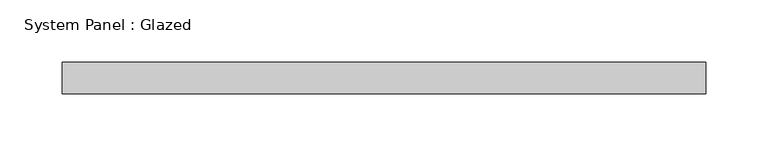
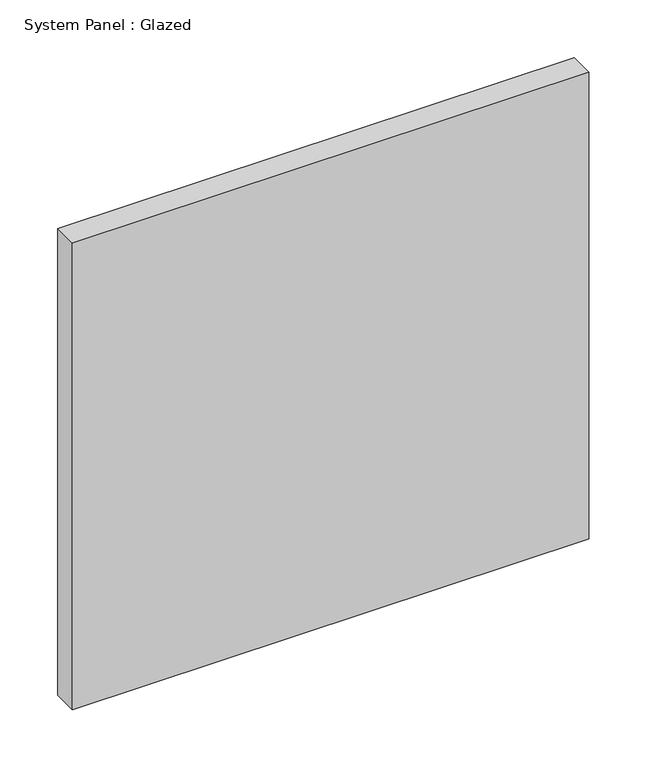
"""IFC4 building model written with IfcOpenShell, lengths in millimetres: plate geometry, System Panel : Glazed."""

import ifcopenshell
import ifcopenshell.guid

model = None  # the IFC model being written
_history = None  # IfcOwnerHistory: only IFC2X3 demands one
_inside = {}  # id of a spatial element -> (the spatial element, [elements in it])
_under = {}  # id of a project, library or spatial element -> (it, [spatial elements below it])
_declared = {}  # id of a project -> (the project, [libraries it declares])
_typed = {}  # id of a type object -> (the type object, [elements of that type])
_made_of = {}  # id of a material, layer set ... -> (it, [elements and type objects made of it])


def new_model(schema):
    """Start an empty IFC model of exactly this schema.

    Asked for "IFC4X3", IfcOpenShell would pick the latest addendum, in which some entities
    have other attributes; the version numbers below select the first issue.
    IFC2X3 requires an IfcOwnerHistory on every rooted entity: one is made here for all.
    """
    global model, _history
    if schema == "IFC4X3":
        model = ifcopenshell.file(schema_version=(4, 3, 0, 0))
    else:
        model = ifcopenshell.file(schema=schema)
    _inside.clear()
    _under.clear()
    _declared.clear()
    _typed.clear()
    _made_of.clear()
    _history = None
    if model.schema == "IFC2X3":
        org = make("IfcOrganization", Name="unknown")
        user = make(
            "IfcPersonAndOrganization",
            ThePerson=make("IfcPerson", FamilyName="unknown"),
            TheOrganization=org,
        )
        app = make(
            "IfcApplication",
            ApplicationDeveloper=org,
            Version="unknown",
            ApplicationFullName="unknown",
            ApplicationIdentifier="unknown",
        )
        _history = make(
            "IfcOwnerHistory",
            OwningUser=user,
            OwningApplication=app,
            ChangeAction="ADDED",
            CreationDate=0,
        )
    return model


def make(cls, **values):
    """One entity of the class cls with the attributes given. An attribute that is None is left unset."""
    return model.create_entity(
        cls, **{name: value for name, value in values.items() if value is not None}
    )


def rooted(cls, **values):
    """An entity with a GlobalId (a new one), such as an element, a storey or a relation."""
    return make(cls, GlobalId=ifcopenshell.guid.new(), OwnerHistory=_history, **values)


def si_unit(unit_type, name, prefix=None):
    """IfcSIUnit, for example si_unit("LENGTHUNIT", "METRE", prefix="MILLI")."""
    return make("IfcSIUnit", UnitType=unit_type, Prefix=prefix, Name=name)


def assignment(units):
    """IfcUnitAssignment: the units of a project."""
    return None if units is None else make("IfcUnitAssignment", Units=units)


def point(xyz):
    """IfcCartesianPoint."""
    return None if xyz is None else make("IfcCartesianPoint", Coordinates=xyz)


def direction(xyz):
    """IfcDirection."""
    return None if xyz is None else make("IfcDirection", DirectionRatios=xyz)


def frame(location, z_axis=None, x_axis=None):
    """IfcAxis2Placement3D, a coordinate frame: its origin and axes. An axis left out is left unset."""
    return make(
        "IfcAxis2Placement3D",
        Location=point(location),
        Axis=direction(z_axis),
        RefDirection=direction(x_axis),
    )


def origin():
    """The frame at (0, 0, 0) with its axes left unset."""
    return frame((0.0, 0.0, 0.0))


def origin_with_axes():
    """The frame at (0, 0, 0) with the z axis (0, 0, 1) and the x axis (1, 0, 0) written out."""
    return frame((0.0, 0.0, 0.0), z_axis=(0.0, 0.0, 1.0), x_axis=(1.0, 0.0, 0.0))


def place(relative_to, where):
    """IfcLocalPlacement: puts the frame where relative to a parent placement (None: the world)."""
    return make(
        "IfcLocalPlacement", PlacementRelTo=relative_to, RelativePlacement=where
    )


def context(
    kind, dimensions, precision=None, world=None, true_north=None, identifier=None
):
    """IfcGeometricRepresentationContext, for example the 3D "Model" context."""
    return make(
        "IfcGeometricRepresentationContext",
        ContextIdentifier=identifier,
        ContextType=kind,
        CoordinateSpaceDimension=dimensions,
        Precision=precision,
        WorldCoordinateSystem=world,
        TrueNorth=true_north,
    )


def project(units=None, contexts=None):
    """IfcProject with its units and contexts."""
    return rooted(
        "IfcProject",
        Name="project",
        RepresentationContexts=contexts,
        UnitsInContext=assignment(units),
    )


def spatial(cls, under=None, at=None, **own):
    """A site, building, storey or space (cls), placed at a placement, below another one or the project."""
    s = rooted(cls, ObjectPlacement=at, **own)
    if under is not None:
        _under.setdefault(under.id(), (under, []))[1].append(s)
    return s


def polyline(points):
    """IfcPolyline through the points."""
    return make("IfcPolyline", Points=[point(p) for p in points])


def outline(outer, holes=None, kind="AREA"):
    """IfcArbitraryClosedProfileDef: a profile drawn as a closed curve; with holes, ...WithVoids."""
    if holes is None:
        return make("IfcArbitraryClosedProfileDef", ProfileType=kind, OuterCurve=outer)
    return make(
        "IfcArbitraryProfileDefWithVoids",
        ProfileType=kind,
        OuterCurve=outer,
        InnerCurves=holes,
    )


def extrude(swept, where, along, depth):
    """IfcExtrudedAreaSolid: the profile swept, set in the frame where, extruded along a direction by depth."""
    return make(
        "IfcExtrudedAreaSolid",
        SweptArea=swept,
        Position=where,
        ExtrudedDirection=direction(along),
        Depth=depth,
    )


def shape(context_of_items, identifier, shape_type, items):
    """IfcShapeRepresentation: the items that make up one representation, for example the "Body"."""
    return make(
        "IfcShapeRepresentation",
        ContextOfItems=context_of_items,
        RepresentationIdentifier=identifier,
        RepresentationType=shape_type,
        Items=items,
    )


def source(mapping_origin, context_of_items, identifier, shape_type, items):
    """IfcRepresentationMap: a shape defined once, which mapped items show again and again."""
    return make(
        "IfcRepresentationMap",
        MappingOrigin=mapping_origin,
        MappedRepresentation=shape(context_of_items, identifier, shape_type, items),
    )


def transform(
    local_origin,
    x_axis=None,
    y_axis=None,
    z_axis=None,
    scale=None,
    scale2=None,
    scale3=None,
    uniform=True,
):
    """IfcCartesianTransformationOperator3D, or its non-uniform kind. x_axis, y_axis, z_axis: its Axis1, 2, 3."""
    if uniform:
        return make(
            "IfcCartesianTransformationOperator3D",
            Axis1=direction(x_axis),
            Axis2=direction(y_axis),
            LocalOrigin=point(local_origin),
            Scale=scale,
            Axis3=direction(z_axis),
        )
    return make(
        "IfcCartesianTransformationOperator3DnonUniform",
        Axis1=direction(x_axis),
        Axis2=direction(y_axis),
        LocalOrigin=point(local_origin),
        Scale=scale,
        Axis3=direction(z_axis),
        Scale2=scale2,
        Scale3=scale3,
    )


def mapped(mapping_source, mapping_target):
    """IfcMappedItem: shows the shape of a source again, moved by a transform."""
    return make(
        "IfcMappedItem", MappingSource=mapping_source, MappingTarget=mapping_target
    )


def made_of(thing, what):
    """Note that an element or type object is made of a material, layer set ...; save() writes the relation."""
    if what is not None:
        _made_of.setdefault(what.id(), (what, []))[1].append(thing)
    return thing


def element(
    cls,
    number,
    at=None,
    inside=None,
    cuts=None,
    type_object=None,
    material=None,
    context=None,
    identifier="Body",
    shape_type=None,
    held_by="IfcProductDefinitionShape",
    body=None,
    shapes=None,
    **own,
):
    """One element of the class cls, such as IfcWall. Its Tag is "e" and its number.

    at: its placement. inside: the storey or other place that contains it. cuts: it is an
    opening in that element (IfcRelVoidsElement). A single representation is given by context,
    identifier, shape_type and body (its items); several are given by shapes. held_by: the class
    of the entity that holds the representations. save() writes the other relations.
    """
    e = rooted(cls, Tag="e%d" % number, ObjectPlacement=at, **own)
    if body is not None:
        shapes = [shape(context, identifier, shape_type, body)]
    if shapes is not None:
        e.Representation = make(held_by, Representations=shapes)
    if inside is not None:
        _inside.setdefault(inside.id(), (inside, []))[1].append(e)
    if cuts is not None:
        rooted(
            "IfcRelVoidsElement", RelatingBuildingElement=cuts, RelatedOpeningElement=e
        )
    if type_object is not None:
        _typed.setdefault(type_object.id(), (type_object, []))[1].append(e)
    return made_of(e, material)


def aggregate(whole, parts):
    """IfcRelAggregates: a whole, such as a stair, and the parts it consists of."""
    return rooted("IfcRelAggregates", RelatingObject=whole, RelatedObjects=parts)


def save(model, path):
    """Write the relations noted so far, then the file.

    IfcRelAggregates (storeys below a building ...), IfcRelContainedInSpatialStructure (elements
    in a storey), IfcRelDefinesByType, IfcRelAssociatesMaterial and IfcRelDeclares: one each for
    every whole, place, type object, material and project.
    """
    for whole, parts in _under.values():
        aggregate(whole, parts)
    for where, things in _inside.values():
        rooted(
            "IfcRelContainedInSpatialStructure",
            RelatedElements=things,
            RelatingStructure=where,
        )
    for kind, things in _typed.values():
        rooted("IfcRelDefinesByType", RelatedObjects=things, RelatingType=kind)
    for what, things in _made_of.values():
        rooted("IfcRelAssociatesMaterial", RelatedObjects=things, RelatingMaterial=what)
    for by, libraries in _declared.values():
        rooted("IfcRelDeclares", RelatingContext=by, RelatedDefinitions=libraries)
    model.write(path)


def system_panel_glazed_12cc9f41(model_context):
    return source(origin(), model_context, "Body", "SweptSolid", [
        extrude(outline(polyline([(259.08, -12.7), (-259.08, -12.7), (-259.08, 12.7), (259.08, 12.7), (259.08, -12.7)])), origin_with_axes(), (0.0, 0.0, 1.0), 495.3),
    ])


if __name__ == "__main__":
    model = new_model("IFC4")
    model_context = context("Model", 3, world=origin())
    ifc_project = project(units=[si_unit("LENGTHUNIT", "METRE", prefix="MILLI")], contexts=[model_context])
    site = spatial("IfcSite", under=ifc_project)
    building = spatial("IfcBuilding", under=site)
    placement = place(None, origin())
    system_panel_glazed_shape = system_panel_glazed_12cc9f41(model_context)
    element("IfcPlate", 1, ObjectType="System Panel : Glazed", at=placement, inside=building, context=model_context, shape_type="MappedRepresentation", body=[
        mapped(system_panel_glazed_shape, transform((0.0, 0.0, 0.0), x_axis=(1.0, 0.0, 0.0), y_axis=(0.0, 1.0, 0.0), z_axis=(0.0, 0.0, 1.0))),
    ])
    save(model, "model.ifc")
